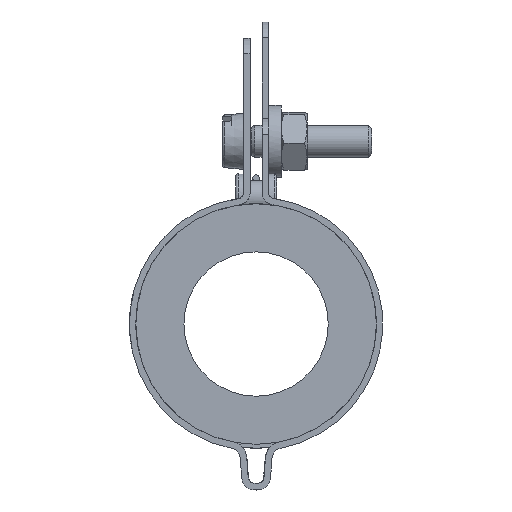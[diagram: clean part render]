
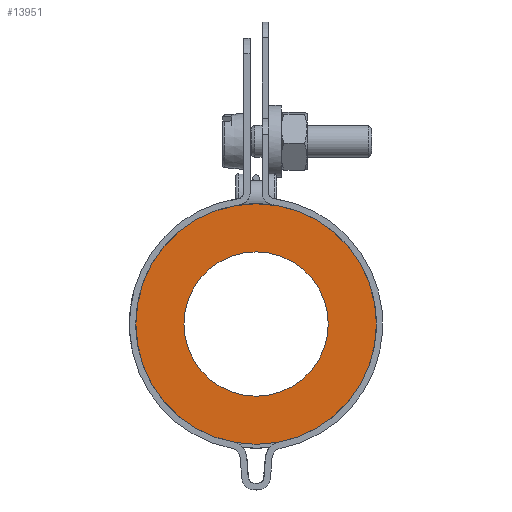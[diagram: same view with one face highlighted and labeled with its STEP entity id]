
A CAD part, front view. The second image highlights one B-rep face of the part: STEP entity #13951.
In plain terms, the highlighted planar face has unit normal (0, -1, 0).
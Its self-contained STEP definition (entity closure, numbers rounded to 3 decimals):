
#2716=FACE_BOUND($,#4096,.T.);
#2717=FACE_BOUND($,#4097,.T.);
#4096=EDGE_LOOP($,(#11752));
#4097=EDGE_LOOP($,(#11753));
#4743=CIRCLE($,#15046,15.);
#4848=CIRCLE($,#15312,9.);
#5944=VERTEX_POINT($,#22773);
#6135=VERTEX_POINT($,#23962);
#7790=EDGE_CURVE($,#5944,#5944,#4743,.T.);
#8055=EDGE_CURVE($,#6135,#6135,#4848,.T.);
#11752=ORIENTED_EDGE($,*,*,#8055,.T.);
#11753=ORIENTED_EDGE($,*,*,#7790,.T.);
#12600=PLANE($,#15314);
#13951=ADVANCED_FACE($,(#2716,#2717),#12600,.T.);
#15046=AXIS2_PLACEMENT_3D($,#22774,#18441,#18442);
#15312=AXIS2_PLACEMENT_3D($,#23963,#19051,#19052);
#15314=AXIS2_PLACEMENT_3D($,#23965,#19055,#19056);
#18441=DIRECTION('center_axis',(0.,-1.,0.));
#18442=DIRECTION('ref_axis',(1.,0.,0.));
#19051=DIRECTION('center_axis',(0.,1.,0.));
#19052=DIRECTION('ref_axis',(1.,0.,0.));
#19055=DIRECTION('center_axis',(0.,-1.,0.));
#19056=DIRECTION('ref_axis',(0.,0.,-1.));
#22773=CARTESIAN_POINT('',(6.645,46.577,19.693));
#22774=CARTESIAN_POINT('Origin',(21.645,46.577,19.693));
#23962=CARTESIAN_POINT('',(12.645,46.577,19.693));
#23963=CARTESIAN_POINT('Origin',(21.645,46.577,19.693));
#23965=CARTESIAN_POINT('Origin',(21.645,46.577,19.693));
